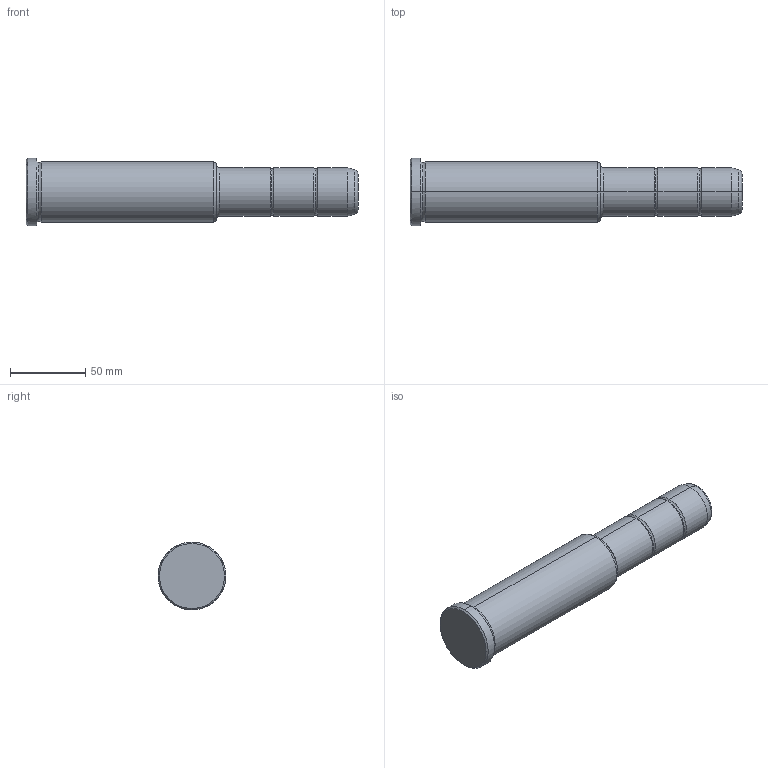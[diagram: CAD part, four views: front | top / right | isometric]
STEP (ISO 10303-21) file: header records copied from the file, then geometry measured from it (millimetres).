
FILE_DESCRIPTION(('CATIA V5 STEP Exchange'),'2;1');
FILE_NAME('C:\Users\Utente\Desktop\IO LAVORO\3D X SITO CF\X SITO\PLASTICA\351\351-32X126X220.stp','2021-09-15T12:26:12+00:00',('none'),('none'),'CATIA Version 5 Release 20 GA (IN-10)','CATIA V5 STEP AP203','none');
FILE_SCHEMA(('CONFIG_CONTROL_DESIGN'));
Length unit declared in the file: millimetre
Products named in the file (1): 351-32X126X220
Bounding box: 220 x 45 x 45 mm (x, y, z)
Volume: 235066.9 mm3; surface area: 28145 mm2
Topology: 1 solids, 1 shells, 36 faces, 102 edges, 70 vertices
Faces by surface type: torus 16, cylinder 10, cone 6, plane 4
Entity records: 1292 total; most frequent: CARTESIAN_POINT 321, ORIENTED_EDGE 204, DIRECTION 166, AXIS2_PLACEMENT_3D 115, EDGE_CURVE 102, CIRCLE 78, VERTEX_POINT 70, EDGE_LOOP 38
